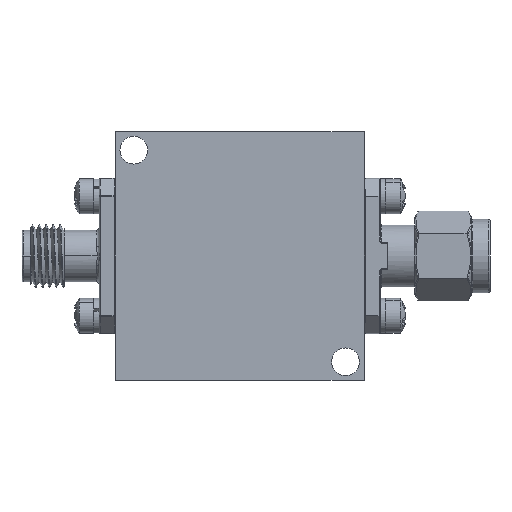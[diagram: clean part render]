
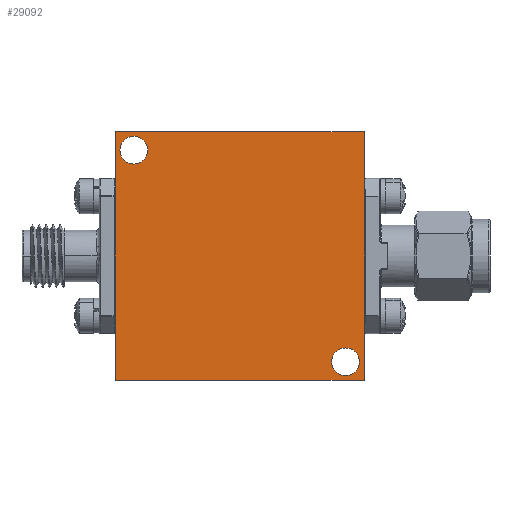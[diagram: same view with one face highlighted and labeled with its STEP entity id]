
A CAD part, front view. The second image highlights one B-rep face of the part: STEP entity #29092.
In plain terms, the highlighted planar face has unit normal (0, -1, 0).
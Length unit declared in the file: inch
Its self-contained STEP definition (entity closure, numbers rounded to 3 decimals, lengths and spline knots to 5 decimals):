
#169 = CARTESIAN_POINT ( 'NONE',  ( -0.6576, -0.13518, 0.30845 ) ) ;
#551 = CARTESIAN_POINT ( 'NONE',  ( 0.2679, -0.13518, -0.67305 ) ) ;
#1064 = CIRCLE ( 'NONE', #22745, 0.056 ) ;
#1268 = DIRECTION ( 'NONE',  ( -1., 0., 0. ) ) ;
#1812 = DIRECTION ( 'NONE',  ( 0., 0., 1. ) ) ;
#2372 = CIRCLE ( 'NONE', #22367, 0.056 ) ;
#2549 = EDGE_CURVE ( 'NONE', #28457, #8594, #16039, .T. ) ;
#2906 = ORIENTED_EDGE ( 'NONE', *, *, #33461, .T. ) ;
#3496 = EDGE_CURVE ( 'NONE', #30865, #28457, #4515, .T. ) ;
#3763 = EDGE_LOOP ( 'NONE', ( #9349, #2906 ) ) ;
#4062 = EDGE_CURVE ( 'NONE', #17183, #30865, #22540, .T. ) ;
#4157 = CARTESIAN_POINT ( 'NONE',  ( -0.6576, -0.13518, 0.30845 ) ) ;
#4332 = CARTESIAN_POINT ( 'NONE',  ( -0.5831, -0.13518, 0.23395 ) ) ;
#4515 = LINE ( 'NONE', #4157, #7153 ) ;
#5193 = DIRECTION ( 'NONE',  ( 0., 0., -1. ) ) ;
#5422 = VECTOR ( 'NONE', #1268, 39.37008 ) ;
#5596 = VERTEX_POINT ( 'NONE', #9387 ) ;
#5995 = CARTESIAN_POINT ( 'NONE',  ( -0.6576, -0.13518, 0.30845 ) ) ;
#6050 = DIRECTION ( 'NONE',  ( 0., 1., 0. ) ) ;
#6298 = VECTOR ( 'NONE', #10709, 39.37008 ) ;
#6650 = CARTESIAN_POINT ( 'NONE',  ( -0.6576, -0.13518, -0.69155 ) ) ;
#7153 = VECTOR ( 'NONE', #26457, 39.37008 ) ;
#7639 = ORIENTED_EDGE ( 'NONE', *, *, #4062, .F. ) ;
#7862 = VERTEX_POINT ( 'NONE', #551 ) ;
#7865 = FACE_OUTER_BOUND ( 'NONE', #27062, .T. ) ;
#8065 = ORIENTED_EDGE ( 'NONE', *, *, #2549, .F. ) ;
#8152 = EDGE_CURVE ( 'NONE', #15625, #7862, #31310, .T. ) ;
#8242 = ORIENTED_EDGE ( 'NONE', *, *, #24570, .T. ) ;
#8594 = VERTEX_POINT ( 'NONE', #25108 ) ;
#8759 = CARTESIAN_POINT ( 'NONE',  ( 0.2679, -0.13518, -0.61705 ) ) ;
#8977 = CARTESIAN_POINT ( 'NONE',  ( -0.5831, -0.13518, 0.23395 ) ) ;
#9321 = DIRECTION ( 'NONE',  ( 0., 1., 0. ) ) ;
#9349 = ORIENTED_EDGE ( 'NONE', *, *, #8152, .T. ) ;
#9387 = CARTESIAN_POINT ( 'NONE',  ( -0.5831, -0.13518, 0.28995 ) ) ;
#10619 = ORIENTED_EDGE ( 'NONE', *, *, #27849, .T. ) ;
#10709 = DIRECTION ( 'NONE',  ( 1., 0., 0. ) ) ;
#12315 = VECTOR ( 'NONE', #22801, 39.37008 ) ;
#13837 = ORIENTED_EDGE ( 'NONE', *, *, #3496, .F. ) ;
#14549 = VERTEX_POINT ( 'NONE', #18998 ) ;
#15195 = DIRECTION ( 'NONE',  ( 0., 1., 0. ) ) ;
#15625 = VERTEX_POINT ( 'NONE', #22217 ) ;
#16039 = LINE ( 'NONE', #21763, #6298 ) ;
#16251 = CIRCLE ( 'NONE', #34532, 0.056 ) ;
#17183 = VERTEX_POINT ( 'NONE', #28021 ) ;
#17571 = EDGE_CURVE ( 'NONE', #8594, #17183, #19749, .T. ) ;
#18020 = DIRECTION ( 'NONE',  ( 0., 0., 1. ) ) ;
#18998 = CARTESIAN_POINT ( 'NONE',  ( -0.5831, -0.13518, 0.17795 ) ) ;
#19314 = AXIS2_PLACEMENT_3D ( 'NONE', #27654, #6050, #31028 ) ;
#19749 = LINE ( 'NONE', #31182, #12315 ) ;
#20376 = EDGE_LOOP ( 'NONE', ( #10619, #8242 ) ) ;
#21763 = CARTESIAN_POINT ( 'NONE',  ( -0.6576, -0.13518, 0.30845 ) ) ;
#21788 = FACE_BOUND ( 'NONE', #3763, .T. ) ;
#22217 = CARTESIAN_POINT ( 'NONE',  ( 0.2679, -0.13518, -0.56105 ) ) ;
#22367 = AXIS2_PLACEMENT_3D ( 'NONE', #4332, #15195, #1812 ) ;
#22447 = CARTESIAN_POINT ( 'NONE',  ( -0.6576, -0.13518, -0.69155 ) ) ;
#22540 = LINE ( 'NONE', #6650, #5422 ) ;
#22745 = AXIS2_PLACEMENT_3D ( 'NONE', #8977, #9321, #31116 ) ;
#22801 = DIRECTION ( 'NONE',  ( 0., 0., -1. ) ) ;
#23097 = ORIENTED_EDGE ( 'NONE', *, *, #17571, .F. ) ;
#24570 = EDGE_CURVE ( 'NONE', #14549, #5596, #1064, .T. ) ;
#24646 = PLANE ( 'NONE',  #34943 ) ;
#25108 = CARTESIAN_POINT ( 'NONE',  ( 0.3424, -0.13518, 0.30845 ) ) ;
#26255 = DIRECTION ( 'NONE',  ( 0., 1., 0. ) ) ;
#26457 = DIRECTION ( 'NONE',  ( 0., 0., 1. ) ) ;
#27062 = EDGE_LOOP ( 'NONE', ( #13837, #7639, #23097, #8065 ) ) ;
#27654 = CARTESIAN_POINT ( 'NONE',  ( 0.2679, -0.13518, -0.61705 ) ) ;
#27849 = EDGE_CURVE ( 'NONE', #5596, #14549, #2372, .T. ) ;
#28021 = CARTESIAN_POINT ( 'NONE',  ( 0.3424, -0.13518, -0.69155 ) ) ;
#28457 = VERTEX_POINT ( 'NONE', #5995 ) ;
#29092 = ADVANCED_FACE ( 'NONE', ( #35378, #21788, #7865 ), #24646, .T. ) ;
#29655 = DIRECTION ( 'NONE',  ( 0., -1., 0. ) ) ;
#30865 = VERTEX_POINT ( 'NONE', #22447 ) ;
#31028 = DIRECTION ( 'NONE',  ( 0., 0., 1. ) ) ;
#31116 = DIRECTION ( 'NONE',  ( 0., 0., 1. ) ) ;
#31182 = CARTESIAN_POINT ( 'NONE',  ( 0.3424, -0.13518, 0.30845 ) ) ;
#31310 = CIRCLE ( 'NONE', #19314, 0.056 ) ;
#33461 = EDGE_CURVE ( 'NONE', #7862, #15625, #16251, .T. ) ;
#34532 = AXIS2_PLACEMENT_3D ( 'NONE', #8759, #26255, #18020 ) ;
#34943 = AXIS2_PLACEMENT_3D ( 'NONE', #169, #29655, #5193 ) ;
#35378 = FACE_BOUND ( 'NONE', #20376, .T. ) ;
